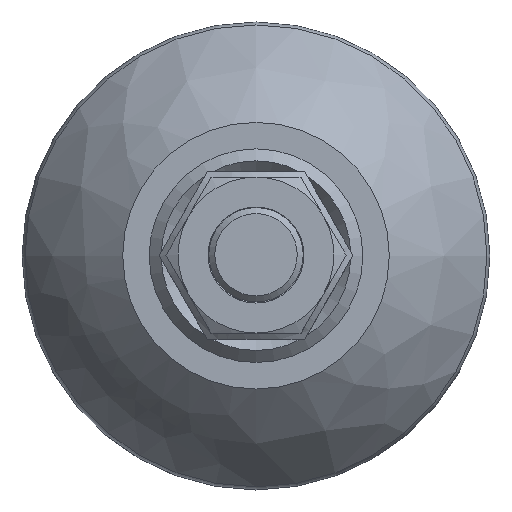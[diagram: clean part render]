
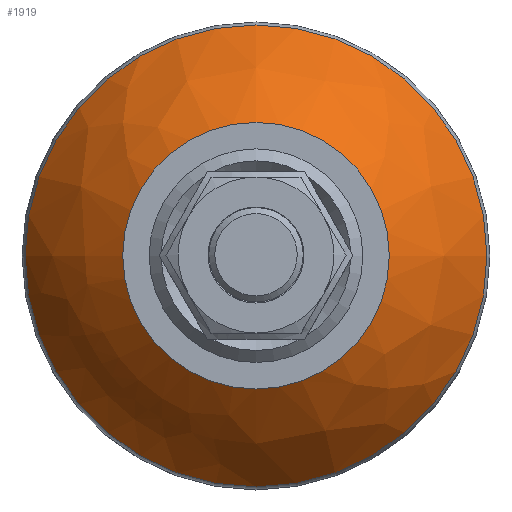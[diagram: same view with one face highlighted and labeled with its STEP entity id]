
A CAD part, top view. The second image highlights one B-rep face of the part: STEP entity #1919.
In plain terms, the highlighted free-form (B-spline) face has degree [2, 2] with [3, 9] control points.
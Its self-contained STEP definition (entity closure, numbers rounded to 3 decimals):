
#175=(
BOUNDED_SURFACE()
B_SPLINE_SURFACE(2,2,((#3843,#3844,#3845,#3846,#3847,#3848,#3849,#3850,
#3851),(#3852,#3853,#3854,#3855,#3856,#3857,#3858,#3859,#3860),(#3861,#3862,
#3863,#3864,#3865,#3866,#3867,#3868,#3869)),.UNSPECIFIED.,.F.,.T.,.F.)
B_SPLINE_SURFACE_WITH_KNOTS((3,3),(3,2,2,2,3),(0.503,0.909),
(-3.142,-1.571,0.,1.571,3.142),
 .UNSPECIFIED.)
GEOMETRIC_REPRESENTATION_ITEM()
RATIONAL_B_SPLINE_SURFACE(((1.,0.707,1.,0.707,1.,
0.707,1.,0.707,1.),(0.979,0.693,
0.979,0.693,0.979,0.693,
0.979,0.693,0.979),(1.,0.707,
1.,0.707,1.,0.707,1.,0.707,1.)))
REPRESENTATION_ITEM('')
SURFACE()
);
#335=FACE_OUTER_BOUND('',#462,.T.);
#462=EDGE_LOOP('',(#1586,#1587,#1588,#1589));
#729=CIRCLE('',#2134,11.113);
#730=CIRCLE('',#2135,31.093);
#731=CIRCLE('',#2136,19.252);
#882=VERTEX_POINT('',#3870);
#883=VERTEX_POINT('',#3872);
#1129=EDGE_CURVE('',#882,#882,#729,.T.);
#1130=EDGE_CURVE('',#882,#883,#730,.T.);
#1131=EDGE_CURVE('',#883,#883,#731,.T.);
#1586=ORIENTED_EDGE('',*,*,#1129,.T.);
#1587=ORIENTED_EDGE('',*,*,#1130,.T.);
#1588=ORIENTED_EDGE('',*,*,#1131,.T.);
#1589=ORIENTED_EDGE('',*,*,#1130,.F.);
#1919=ADVANCED_FACE('',(#335),#175,.F.);
#2134=AXIS2_PLACEMENT_3D('',#3871,#2513,#2514);
#2135=AXIS2_PLACEMENT_3D('',#3873,#2515,#2516);
#2136=AXIS2_PLACEMENT_3D('',#3874,#2517,#2518);
#2513=DIRECTION('center_axis',(0.,0.,-1.));
#2514=DIRECTION('ref_axis',(1.,0.,0.));
#2515=DIRECTION('center_axis',(0.,-1.,0.));
#2516=DIRECTION('ref_axis',(-1.,0.,0.));
#2517=DIRECTION('center_axis',(0.,0.,1.));
#2518=DIRECTION('ref_axis',(1.,0.,0.));
#3843=CARTESIAN_POINT('Ctrl Pts',(-19.252,0.,
12.459));
#3844=CARTESIAN_POINT('Ctrl Pts',(-19.252,-19.252,12.459));
#3845=CARTESIAN_POINT('Ctrl Pts',(0.,-19.252,
12.459));
#3846=CARTESIAN_POINT('Ctrl Pts',(19.252,-19.252,12.459));
#3847=CARTESIAN_POINT('Ctrl Pts',(19.252,0.,
12.459));
#3848=CARTESIAN_POINT('Ctrl Pts',(19.252,19.252,12.459));
#3849=CARTESIAN_POINT('Ctrl Pts',(0.,19.252,
12.459));
#3850=CARTESIAN_POINT('Ctrl Pts',(-19.252,19.252,12.459));
#3851=CARTESIAN_POINT('Ctrl Pts',(-19.252,0.,
12.459));
#3852=CARTESIAN_POINT('Ctrl Pts',(-16.165,0.,
18.068));
#3853=CARTESIAN_POINT('Ctrl Pts',(-16.165,-16.165,18.068));
#3854=CARTESIAN_POINT('Ctrl Pts',(0.,-16.165,
18.068));
#3855=CARTESIAN_POINT('Ctrl Pts',(16.165,-16.165,18.068));
#3856=CARTESIAN_POINT('Ctrl Pts',(16.165,0.,
18.068));
#3857=CARTESIAN_POINT('Ctrl Pts',(16.165,16.165,18.068));
#3858=CARTESIAN_POINT('Ctrl Pts',(0.,16.165,
18.068));
#3859=CARTESIAN_POINT('Ctrl Pts',(-16.165,16.165,18.068));
#3860=CARTESIAN_POINT('Ctrl Pts',(-16.165,0.,
18.068));
#3861=CARTESIAN_POINT('Ctrl Pts',(-11.113,0.,
22.));
#3862=CARTESIAN_POINT('Ctrl Pts',(-11.113,-11.113,22.));
#3863=CARTESIAN_POINT('Ctrl Pts',(0.,-11.113,
22.));
#3864=CARTESIAN_POINT('Ctrl Pts',(11.113,-11.113,22.));
#3865=CARTESIAN_POINT('Ctrl Pts',(11.113,0.,
22.));
#3866=CARTESIAN_POINT('Ctrl Pts',(11.113,11.113,22.));
#3867=CARTESIAN_POINT('Ctrl Pts',(0.,11.113,
22.));
#3868=CARTESIAN_POINT('Ctrl Pts',(-11.113,11.113,22.));
#3869=CARTESIAN_POINT('Ctrl Pts',(-11.113,0.,
22.));
#3870=CARTESIAN_POINT('',(-11.113,0.,22.));
#3871=CARTESIAN_POINT('Origin',(0.,0.,
22.));
#3872=CARTESIAN_POINT('',(-19.252,0.,12.459));
#3873=CARTESIAN_POINT('Origin',(7.986,0.,-2.535));
#3874=CARTESIAN_POINT('Origin',(0.,0.,
12.459));
